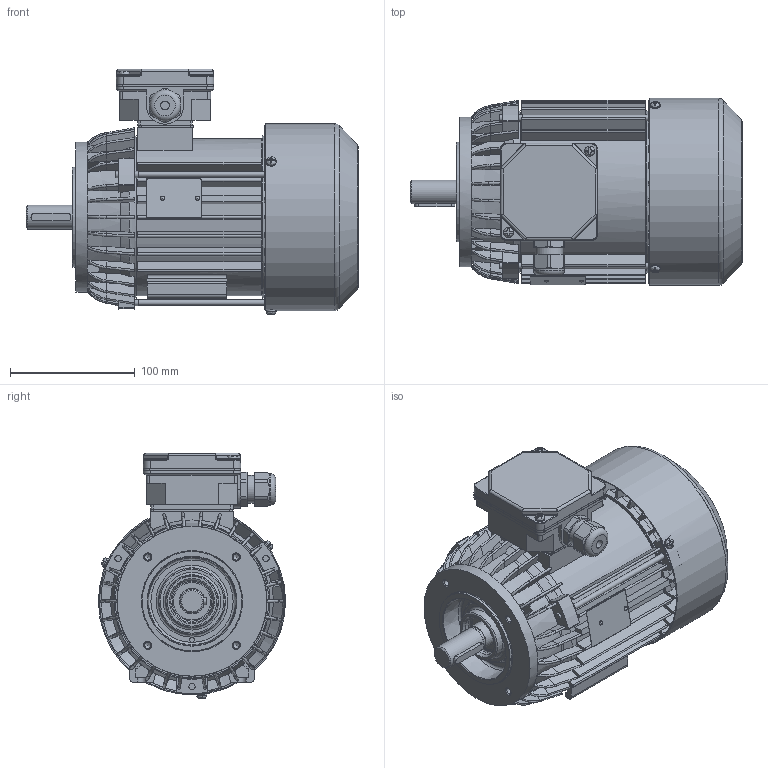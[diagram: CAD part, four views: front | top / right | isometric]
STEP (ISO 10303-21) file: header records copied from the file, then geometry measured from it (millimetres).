
FILE_DESCRIPTION( ( 'Unknown' ), '1' );
FILE_NAME( 'G:/Poczta Tk-1/STP/w.m.80/Sh80/SKh80-.A2.stp', 'Unknown', ( 'K. Szlosek' ), ( 'BESEL S.A.' ), 'PSStep 17.0.49', 'Unknown', ' ' );
FILE_SCHEMA( ( 'AUTOMOTIVE_DESIGN { 1 0 10303 214 1 1 1 1 }' ) );
Length unit declared in the file: millimetre
Products named in the file (29): skrznka zaciskowa trójfazowa ; K4-2820 Uszczelka nr 2 Sh71,80; Dławnica M20x1,5; K2-0859 Podstawa skrzynki 6-cio zaciskowej; K2-0860 Pokrywka skrzynki zaciskowej; Assem1; K1-1257 Kadłub S(E,M)h80-A i B; K2-2027 Tarcza łożyskowa P S(E,M)h80-.A,C; K4-2320 Uszczelka nr 1 Sh71,80; Wkręt samogwintujący M4x16; Nitokołek A 2x6; Wkręt samogwintujący M4x8; K3-7038 wał standard Sh80-A; Wpust A6x6x32; K3-4025 Przewietrznik Sg,h80; K4-4489 Osłona przewietrznika Sh80,90-A,C; K1-1261 Tarcza kołnierzowa B14_2 w.m. 80; Tabliczka znamionowa 32x44; Łożysko 6204; Śruba ściągająca E_M5x130
Assembly tree (44 placements, depth 3):
  Assem1
    K1-1257 Kadłub S(E,M)h80-A i B
    K2-2027 Tarcza łożyskowa P S(E,M)h80-.A,C
    K4-2320 Uszczelka nr 1 Sh71,80
    Wkręt samogwintujący M4x16  x2
    Nitokołek A 2x6  x2
    Wkręt samogwintujący M4x8  x3
    K3-7038 wał standard Sh80-A
    Wpust A6x6x32
    K3-4025 Przewietrznik Sg,h80
    K4-4489 Osłona przewietrznika Sh80,90-A,C
    K1-1261 Tarcza kołnierzowa B14_2 w.m. 80
    Tabliczka znamionowa 32x44
    Łożysko 6204  x2
    Łożysko 6204  x2
    Łożysko 6204  x2
    Łożysko 6204  x2
    Łożysko 6204  x2
    Łożysko 6204  x2
    Łożysko 6204  x2
    Łożysko 6204  x2
    Łożysko 6204  x2
    Łożysko 6204  x2
    Śruba ściągająca E_M5x130  x3
    skrznka zaciskowa trójfazowa 
      K4-2820 Uszczelka nr 2 Sh71,80
      Dławnica M20x1,5
      K2-0859 Podstawa skrzynki 6-cio zaciskowej
      K2-0860 Pokrywka skrzynki zaciskowej
Bounding box: 265.8 x 149.88 x 196.68 mm (x, y, z)
Volume: 768499.9 mm3; surface area: 513428.9 mm2
Topology: 43 solids, 59 shells, 2572 faces, 7262 edges, 4653 vertices
Faces by surface type: plane 1225, cylinder 780, bspline 285, torus 125, cone 123, sphere 34
Full cylindrical faces by diameter (mm): 2 x2, 2.4 x2, 3 x1, 3.7 x11, 4 x6, 4.2 x3, 4.5 x1, 4.6 x3, 4.8 x4, 5 x11, 5.5 x3, 7 x1, 8 x9, 18.376 x1, 18.38 x1, 18.6 x1, 19 x1, 19.3 x1, 19.5 x2, 19.9 x1, 20 x5, 20.3 x2, 20.4 x4, 22.3 x1, 25 x1, 25.5 x1, 25.65 x1, 26 x3, 26.05 x1, 28.802 x4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
Entity records: 124212 total; most frequent: CARTESIAN_POINT 44732, ORIENTED_EDGE 12828, DIRECTION 11744, EDGE_CURVE 6414, VERTEX_POINT 4296, AXIS2_PLACEMENT_3D 4276, LINE 3192, VECTOR 3192
